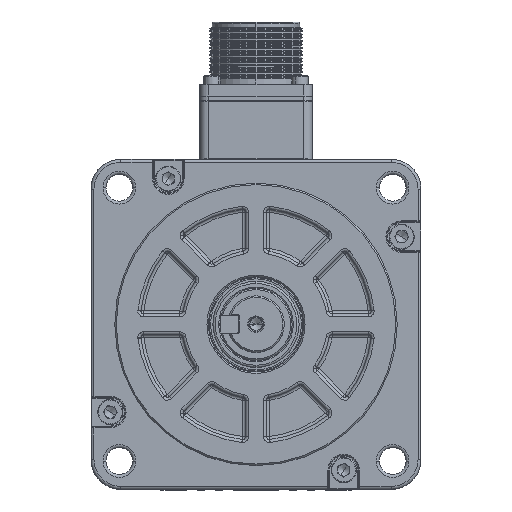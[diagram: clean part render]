
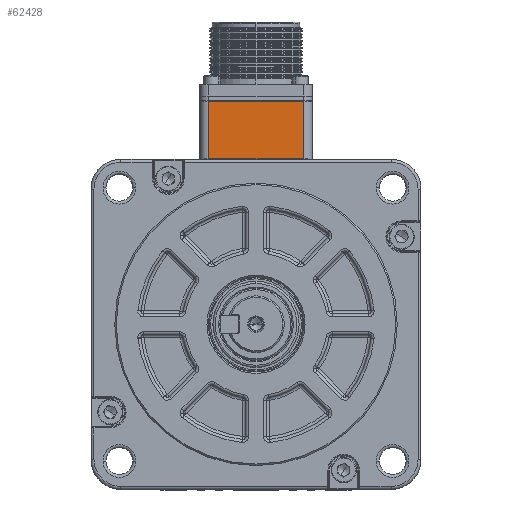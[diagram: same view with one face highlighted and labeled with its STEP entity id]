
A CAD part, top view. The second image highlights one B-rep face of the part: STEP entity #62428.
In plain terms, the highlighted planar face has unit normal (0, 0, 1) as drawn and (1, 0, 0) by its records, which use the part's own axes.
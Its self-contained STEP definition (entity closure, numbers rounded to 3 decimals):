
#203 = VERTEX_POINT ( 'NONE', #33101 ) ;
#1086 = DIRECTION ( 'NONE',  ( 0., 0., 1. ) ) ;
#1722 = CARTESIAN_POINT ( 'NONE',  ( 19., -16., 20. ) ) ;
#3459 = EDGE_CURVE ( 'NONE', #42884, #40515, #29194, .T. ) ;
#6837 = LINE ( 'NONE', #17825, #68753 ) ;
#10928 = DIRECTION ( 'NONE',  ( -1., 0., 0. ) ) ;
#11019 = ORIENTED_EDGE ( 'NONE', *, *, #11732, .T. ) ;
#11732 = EDGE_CURVE ( 'NONE', #99911, #42884, #6837, .T. ) ;
#12001 = VECTOR ( 'NONE', #56065, 1000. ) ;
#15112 = CARTESIAN_POINT ( 'NONE',  ( 19., -19., 0. ) ) ;
#17825 = CARTESIAN_POINT ( 'NONE',  ( 19., 16., 20. ) ) ;
#18916 = ORIENTED_EDGE ( 'NONE', *, *, #82043, .T. ) ;
#20256 = CARTESIAN_POINT ( 'NONE',  ( 19., 16., 19.7 ) ) ;
#24492 = EDGE_LOOP ( 'NONE', ( #11019, #97200, #78404, #18916 ) ) ;
#26163 = CARTESIAN_POINT ( 'NONE',  ( 19., -16., 19.7 ) ) ;
#29194 = LINE ( 'NONE', #87865, #41466 ) ;
#33101 = CARTESIAN_POINT ( 'NONE',  ( 19., -16., 0. ) ) ;
#34026 = DIRECTION ( 'NONE',  ( 0., -1., 0. ) ) ;
#35090 = LINE ( 'NONE', #1722, #12001 ) ;
#35375 = PLANE ( 'NONE',  #89570 ) ;
#40515 = VERTEX_POINT ( 'NONE', #26163 ) ;
#41466 = VECTOR ( 'NONE', #34026, 1000. ) ;
#42830 = DIRECTION ( 'NONE',  ( 0., 0., 1. ) ) ;
#42884 = VERTEX_POINT ( 'NONE', #20256 ) ;
#56065 = DIRECTION ( 'NONE',  ( 0., 0., -1. ) ) ;
#57824 = LINE ( 'NONE', #15112, #63857 ) ;
#62428 = ADVANCED_FACE ( 'NONE', ( #75715 ), #35375, .F. ) ;
#63857 = VECTOR ( 'NONE', #69338, 1000. ) ;
#68753 = VECTOR ( 'NONE', #1086, 1000. ) ;
#69338 = DIRECTION ( 'NONE',  ( 0., 1., 0. ) ) ;
#75715 = FACE_OUTER_BOUND ( 'NONE', #24492, .T. ) ;
#76898 = CARTESIAN_POINT ( 'NONE',  ( 19., 16., 0. ) ) ;
#78404 = ORIENTED_EDGE ( 'NONE', *, *, #96788, .T. ) ;
#82043 = EDGE_CURVE ( 'NONE', #203, #99911, #57824, .T. ) ;
#87865 = CARTESIAN_POINT ( 'NONE',  ( 19., -19., 19.7 ) ) ;
#89570 = AXIS2_PLACEMENT_3D ( 'NONE', #96033, #10928, #42830 ) ;
#96033 = CARTESIAN_POINT ( 'NONE',  ( 19., -19., 20. ) ) ;
#96788 = EDGE_CURVE ( 'NONE', #40515, #203, #35090, .T. ) ;
#97200 = ORIENTED_EDGE ( 'NONE', *, *, #3459, .T. ) ;
#99911 = VERTEX_POINT ( 'NONE', #76898 ) ;
